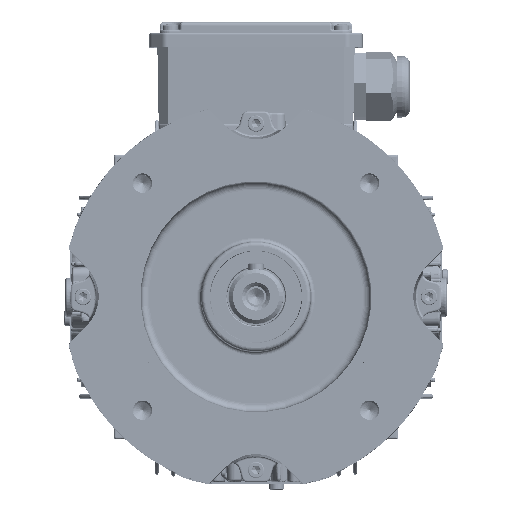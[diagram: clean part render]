
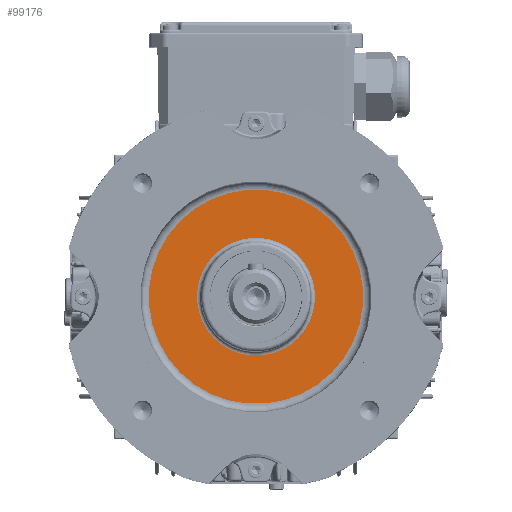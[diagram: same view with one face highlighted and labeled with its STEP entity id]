
A CAD part, top view. The second image highlights one B-rep face of the part: STEP entity #99176.
In plain terms, the highlighted planar face has unit normal (0, 0, 1).
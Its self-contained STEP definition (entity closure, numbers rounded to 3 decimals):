
#88523=PLANE('',#248909);
#99176=ADVANCED_FACE('',(#105403,#105404),#88523,.T.);
#105403=FACE_BOUND('',#117049,.T.);
#105404=FACE_BOUND('',#117050,.T.);
#117049=EDGE_LOOP('',(#167469));
#117050=EDGE_LOOP('',(#167470));
#167469=ORIENTED_EDGE('',*,*,#211726,.T.);
#167470=ORIENTED_EDGE('',*,*,#211727,.F.);
#186024=VERTEX_POINT('',#450431);
#186025=VERTEX_POINT('',#450433);
#211726=EDGE_CURVE('',#186024,#186024,#221969,.T.);
#211727=EDGE_CURVE('',#186025,#186025,#221970,.T.);
#221969=CIRCLE('',#248907,30.326);
#221970=CIRCLE('',#248908,55.086);
#248907=AXIS2_PLACEMENT_3D('',#450430,#296399,#296400);
#248908=AXIS2_PLACEMENT_3D('',#450432,#296401,#296402);
#248909=AXIS2_PLACEMENT_3D('',#450434,#296403,#296404);
#296399=DIRECTION('',(0.,0.,-1.));
#296400=DIRECTION('',(0.707,0.707,0.));
#296401=DIRECTION('',(0.,0.,-1.));
#296402=DIRECTION('',(0.707,0.707,0.));
#296403=DIRECTION('',(0.,0.,1.));
#296404=DIRECTION('',(0.707,0.707,0.));
#450430=CARTESIAN_POINT('',(0.,0.,7.5));
#450431=CARTESIAN_POINT('',(21.444,21.444,7.5));
#450432=CARTESIAN_POINT('',(0.,0.,7.5));
#450433=CARTESIAN_POINT('',(38.952,38.952,7.5));
#450434=CARTESIAN_POINT('',(-39.209,39.209,7.5));
